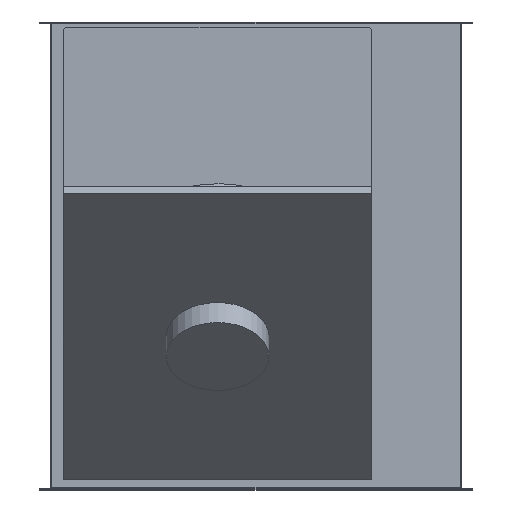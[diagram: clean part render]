
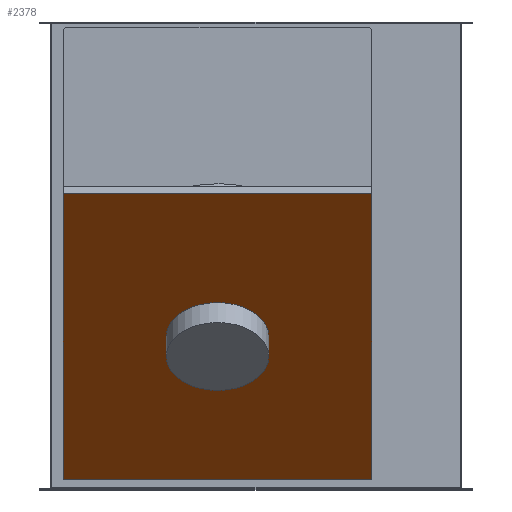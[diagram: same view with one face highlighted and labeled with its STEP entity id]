
A CAD part, top view. The second image highlights one B-rep face of the part: STEP entity #2378.
In plain terms, the highlighted planar face has unit normal (0, -0.751, 0.66).
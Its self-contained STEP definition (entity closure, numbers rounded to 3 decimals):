
#327=LINE('',#4256,#530);
#330=LINE('',#4261,#533);
#332=LINE('',#4265,#535);
#336=LINE('',#4271,#539);
#530=VECTOR('',#3032,10.);
#533=VECTOR('',#3037,10.);
#535=VECTOR('',#3041,10.);
#539=VECTOR('',#3047,10.);
#649=PLANE('',#2562);
#711=FACE_BOUND('',#982,.T.);
#834=FACE_OUTER_BOUND('',#981,.T.);
#981=EDGE_LOOP('',(#2101,#2102,#2103,#2104));
#982=EDGE_LOOP('',(#2105));
#1058=CIRCLE('',#2449,100.);
#1173=VERTEX_POINT('',#3320);
#1280=VERTEX_POINT('',#4253);
#1281=VERTEX_POINT('',#4255);
#1282=VERTEX_POINT('',#4260);
#1283=VERTEX_POINT('',#4264);
#1380=EDGE_CURVE('',#1173,#1173,#1058,.T.);
#1566=EDGE_CURVE('',#1281,#1280,#327,.T.);
#1569=EDGE_CURVE('',#1282,#1281,#330,.T.);
#1571=EDGE_CURVE('',#1283,#1282,#332,.T.);
#1575=EDGE_CURVE('',#1280,#1283,#336,.T.);
#2101=ORIENTED_EDGE('',*,*,#1575,.T.);
#2102=ORIENTED_EDGE('',*,*,#1571,.T.);
#2103=ORIENTED_EDGE('',*,*,#1569,.T.);
#2104=ORIENTED_EDGE('',*,*,#1566,.T.);
#2105=ORIENTED_EDGE('',*,*,#1380,.T.);
#2378=ADVANCED_FACE('',(#834,#711),#649,.T.);
#2449=AXIS2_PLACEMENT_3D('',#3321,#2712,#2713);
#2562=AXIS2_PLACEMENT_3D('',#4274,#3051,#3052);
#2712=DIRECTION('center_axis',(0.,0.751,-0.66));
#2713=DIRECTION('ref_axis',(-1.,0.,0.));
#3032=DIRECTION('',(0.,-0.66,-0.751));
#3037=DIRECTION('',(-1.,0.,0.));
#3041=DIRECTION('',(0.,0.66,0.751));
#3047=DIRECTION('',(1.,0.,0.));
#3051=DIRECTION('center_axis',(0.,-0.751,0.66));
#3052=DIRECTION('ref_axis',(1.,0.,0.));
#3320=CARTESIAN_POINT('',(25.,-158.035,577.834));
#3321=CARTESIAN_POINT('Origin',(-75.,-158.035,577.834));
#4253=CARTESIAN_POINT('',(-376.,-435.698,262.044));
#4255=CARTESIAN_POINT('',(-376.,119.628,893.624));
#4256=CARTESIAN_POINT('',(-376.,-435.698,262.044));
#4260=CARTESIAN_POINT('',(226.,119.628,893.624));
#4261=CARTESIAN_POINT('',(-376.,119.628,893.624));
#4264=CARTESIAN_POINT('',(226.,-435.698,262.044));
#4265=CARTESIAN_POINT('',(226.,119.628,893.624));
#4271=CARTESIAN_POINT('',(226.,-435.698,262.044));
#4274=CARTESIAN_POINT('Origin',(-75.,-158.035,577.834));
